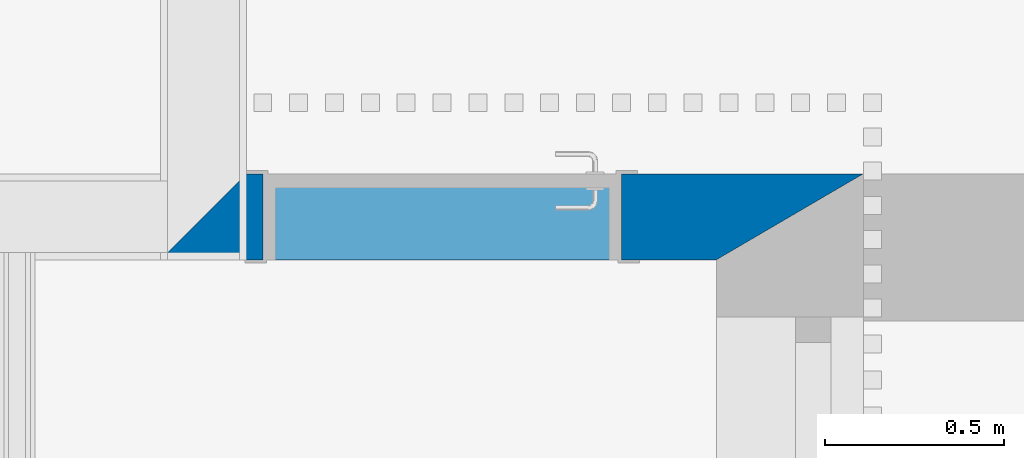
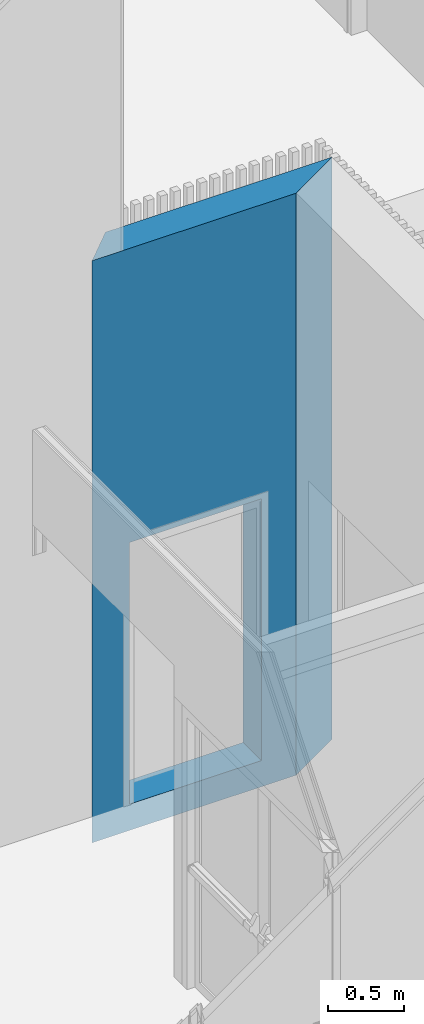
# One storey, part 4 of 34: 1 wall, 1 opening.
"""IFC2X3 building model written with IfcOpenShell, lengths in metres."""

import ifcopenshell
import ifcopenshell.guid

model = None  # the IFC model being written
_history = None  # IfcOwnerHistory: only IFC2X3 demands one
_inside = {}  # id of a spatial element -> (the spatial element, [elements in it])
_under = {}  # id of a project, library or spatial element -> (it, [spatial elements below it])
_declared = {}  # id of a project -> (the project, [libraries it declares])
_typed = {}  # id of a type object -> (the type object, [elements of that type])
_made_of = {}  # id of a material, layer set ... -> (it, [elements and type objects made of it])


def new_model(schema):
    """Start an empty IFC model of exactly this schema.

    Asked for "IFC4X3", IfcOpenShell would pick the latest addendum, in which some entities
    have other attributes; the version numbers below select the first issue.
    IFC2X3 requires an IfcOwnerHistory on every rooted entity: one is made here for all.
    """
    global model, _history
    if schema == "IFC4X3":
        model = ifcopenshell.file(schema_version=(4, 3, 0, 0))
    else:
        model = ifcopenshell.file(schema=schema)
    _inside.clear()
    _under.clear()
    _declared.clear()
    _typed.clear()
    _made_of.clear()
    _history = None
    if model.schema == "IFC2X3":
        org = make("IfcOrganization", Name="unknown")
        user = make(
            "IfcPersonAndOrganization",
            ThePerson=make("IfcPerson", FamilyName="unknown"),
            TheOrganization=org,
        )
        app = make(
            "IfcApplication",
            ApplicationDeveloper=org,
            Version="unknown",
            ApplicationFullName="unknown",
            ApplicationIdentifier="unknown",
        )
        _history = make(
            "IfcOwnerHistory",
            OwningUser=user,
            OwningApplication=app,
            ChangeAction="ADDED",
            CreationDate=0,
        )
    return model


def make(cls, **values):
    """One entity of the class cls with the attributes given. An attribute that is None is left unset."""
    return model.create_entity(
        cls, **{name: value for name, value in values.items() if value is not None}
    )


def entity(cls, *values):
    """Any entity or typed value of the class cls, its attributes in the order of the schema. None: left unset."""
    e = model.create_entity(cls)
    for i, value in enumerate(values):
        if value is not None:
            e[i] = value
    return e


def rooted(cls, **values):
    """An entity with a GlobalId (a new one), such as an element, a storey or a relation."""
    return make(cls, GlobalId=ifcopenshell.guid.new(), OwnerHistory=_history, **values)


def si_unit(unit_type, name, prefix=None):
    """IfcSIUnit, for example si_unit("LENGTHUNIT", "METRE", prefix="MILLI")."""
    return make("IfcSIUnit", UnitType=unit_type, Prefix=prefix, Name=name)


def converted_unit(unit_type, name, factor, base, dimensions=None, offset=None):
    """IfcConversionBasedUnit, such as the inch: factor (a typed value) times the base unit."""
    return make(
        "IfcConversionBasedUnit"
        if offset is None
        else "IfcConversionBasedUnitWithOffset",
        ConversionOffset=offset,
        Dimensions=None
        if dimensions is None
        else entity("IfcDimensionalExponents", *dimensions),
        UnitType=unit_type,
        Name=name,
        ConversionFactor=make(
            "IfcMeasureWithUnit", ValueComponent=factor, UnitComponent=base
        ),
    )


def derived_unit(unit_type, elements):
    """IfcDerivedUnit: a product of units, each with its exponent."""
    return make(
        "IfcDerivedUnit",
        Elements=[
            make("IfcDerivedUnitElement", Unit=unit, Exponent=power)
            for unit, power in elements
        ],
        UnitType=unit_type,
    )


def money_unit(currency):
    """IfcMonetaryUnit."""
    return make("IfcMonetaryUnit", Currency=currency)


def assignment(units):
    """IfcUnitAssignment: the units of a project."""
    return None if units is None else make("IfcUnitAssignment", Units=units)


def point(xyz):
    """IfcCartesianPoint."""
    return None if xyz is None else make("IfcCartesianPoint", Coordinates=xyz)


def direction(xyz):
    """IfcDirection."""
    return None if xyz is None else make("IfcDirection", DirectionRatios=xyz)


def frame(location, z_axis=None, x_axis=None):
    """IfcAxis2Placement3D, a coordinate frame: its origin and axes. An axis left out is left unset."""
    return make(
        "IfcAxis2Placement3D",
        Location=point(location),
        Axis=direction(z_axis),
        RefDirection=direction(x_axis),
    )


def frame_2d(location, x_axis=None):
    """IfcAxis2Placement2D, a coordinate frame in the plane: its origin and x axis."""
    return make(
        "IfcAxis2Placement2D", Location=point(location), RefDirection=direction(x_axis)
    )


def origin_with_axes():
    """The frame at (0, 0, 0) with the z axis (0, 0, 1) and the x axis (1, 0, 0) written out."""
    return frame((0.0, 0.0, 0.0), z_axis=(0.0, 0.0, 1.0), x_axis=(1.0, 0.0, 0.0))


def origin_2d_with_axis():
    """The frame at (0, 0) in the plane with the x axis (1, 0) written out."""
    return frame_2d((0.0, 0.0), x_axis=(1.0, 0.0))


def place(relative_to, where):
    """IfcLocalPlacement: puts the frame where relative to a parent placement (None: the world)."""
    return make(
        "IfcLocalPlacement", PlacementRelTo=relative_to, RelativePlacement=where
    )


def context(
    kind, dimensions, precision=None, world=None, true_north=None, identifier=None
):
    """IfcGeometricRepresentationContext, for example the 3D "Model" context."""
    return make(
        "IfcGeometricRepresentationContext",
        ContextIdentifier=identifier,
        ContextType=kind,
        CoordinateSpaceDimension=dimensions,
        Precision=precision,
        WorldCoordinateSystem=world,
        TrueNorth=true_north,
    )


def subcontext(parent, identifier, kind, view, scale=None):
    """IfcGeometricRepresentationSubContext, for example "Body" below "Model"."""
    return make(
        "IfcGeometricRepresentationSubContext",
        ContextIdentifier=identifier,
        ContextType=kind,
        ParentContext=parent,
        TargetScale=scale,
        TargetView=view,
    )


def project(units=None, contexts=None):
    """IfcProject with its units and contexts."""
    return rooted(
        "IfcProject",
        Name="project",
        RepresentationContexts=contexts,
        UnitsInContext=assignment(units),
    )


def spatial(cls, under=None, at=None, **own):
    """A site, building, storey or space (cls), placed at a placement, below another one or the project."""
    s = rooted(cls, ObjectPlacement=at, **own)
    if under is not None:
        _under.setdefault(under.id(), (under, []))[1].append(s)
    return s


def polyline(points):
    """IfcPolyline through the points."""
    return make("IfcPolyline", Points=[point(p) for p in points])


def profile(cls, at=None, kind="AREA", **sizes):
    """A parametric profile (cls). Its sizes go by their IFC names, for example OverallWidth=200.0."""
    return make(cls, ProfileType=kind, Position=at, **sizes)


def rectangle(**sizes):
    """IfcRectangleProfileDef."""
    return profile("IfcRectangleProfileDef", **sizes)


def outline(outer, holes=None, kind="AREA"):
    """IfcArbitraryClosedProfileDef: a profile drawn as a closed curve; with holes, ...WithVoids."""
    if holes is None:
        return make("IfcArbitraryClosedProfileDef", ProfileType=kind, OuterCurve=outer)
    return make(
        "IfcArbitraryProfileDefWithVoids",
        ProfileType=kind,
        OuterCurve=outer,
        InnerCurves=holes,
    )


def extrude(swept, where, along, depth):
    """IfcExtrudedAreaSolid: the profile swept, set in the frame where, extruded along a direction by depth."""
    return make(
        "IfcExtrudedAreaSolid",
        SweptArea=swept,
        Position=where,
        ExtrudedDirection=direction(along),
        Depth=depth,
    )


def shape(context_of_items, identifier, shape_type, items):
    """IfcShapeRepresentation: the items that make up one representation, for example the "Body"."""
    return make(
        "IfcShapeRepresentation",
        ContextOfItems=context_of_items,
        RepresentationIdentifier=identifier,
        RepresentationType=shape_type,
        Items=items,
    )


def material(Name=None, Category=None):
    """IfcMaterial."""
    return make("IfcMaterial", Name=Name, Category=Category)


def layer(
    of_material, thickness, ventilated=None, Name=None, Category=None, Priority=None
):
    """IfcMaterialLayer: one layer of a wall or slab, of a material (None: an air gap)."""
    return make(
        "IfcMaterialLayer",
        Material=of_material,
        LayerThickness=thickness,
        IsVentilated=ventilated,
        Name=Name,
        Category=Category,
        Priority=Priority,
    )


def layer_set(layers, Name=None):
    """IfcMaterialLayerSet."""
    return make("IfcMaterialLayerSet", MaterialLayers=layers, LayerSetName=Name)


def layer_usage(for_layer_set, set_direction, sense, offset, extent=None):
    """IfcMaterialLayerSetUsage: how a layer set lies in its element."""
    return make(
        "IfcMaterialLayerSetUsage",
        ForLayerSet=for_layer_set,
        LayerSetDirection=set_direction,
        DirectionSense=sense,
        OffsetFromReferenceLine=offset,
        ReferenceExtent=extent,
    )


def made_of(thing, what):
    """Note that an element or type object is made of a material, layer set ...; save() writes the relation."""
    if what is not None:
        _made_of.setdefault(what.id(), (what, []))[1].append(thing)
    return thing


def type_object(cls, material=None, **own):
    """A type object (cls), such as IfcWallType, which elements share."""
    return made_of(rooted(cls, **own), material)


def element(
    cls,
    number,
    at=None,
    inside=None,
    cuts=None,
    type_object=None,
    material=None,
    context=None,
    identifier="Body",
    shape_type=None,
    held_by="IfcProductDefinitionShape",
    body=None,
    shapes=None,
    **own,
):
    """One element of the class cls, such as IfcWall. Its Tag is "e" and its number.

    at: its placement. inside: the storey or other place that contains it. cuts: it is an
    opening in that element (IfcRelVoidsElement). A single representation is given by context,
    identifier, shape_type and body (its items); several are given by shapes. held_by: the class
    of the entity that holds the representations. save() writes the other relations.
    """
    e = rooted(cls, Tag="e%d" % number, ObjectPlacement=at, **own)
    if body is not None:
        shapes = [shape(context, identifier, shape_type, body)]
    if shapes is not None:
        e.Representation = make(held_by, Representations=shapes)
    if inside is not None:
        _inside.setdefault(inside.id(), (inside, []))[1].append(e)
    if cuts is not None:
        rooted(
            "IfcRelVoidsElement", RelatingBuildingElement=cuts, RelatedOpeningElement=e
        )
    if type_object is not None:
        _typed.setdefault(type_object.id(), (type_object, []))[1].append(e)
    return made_of(e, material)


def aggregate(whole, parts):
    """IfcRelAggregates: a whole, such as a stair, and the parts it consists of."""
    return rooted("IfcRelAggregates", RelatingObject=whole, RelatedObjects=parts)


def save(model, path):
    """Write the relations noted so far, then the file.

    IfcRelAggregates (storeys below a building ...), IfcRelContainedInSpatialStructure (elements
    in a storey), IfcRelDefinesByType, IfcRelAssociatesMaterial and IfcRelDeclares: one each for
    every whole, place, type object, material and project.
    """
    for whole, parts in _under.values():
        aggregate(whole, parts)
    for where, things in _inside.values():
        rooted(
            "IfcRelContainedInSpatialStructure",
            RelatedElements=things,
            RelatingStructure=where,
        )
    for kind, things in _typed.values():
        rooted("IfcRelDefinesByType", RelatedObjects=things, RelatingType=kind)
    for what, things in _made_of.values():
        rooted("IfcRelAssociatesMaterial", RelatedObjects=things, RelatingMaterial=what)
    for by, libraries in _declared.values():
        rooted("IfcRelDeclares", RelatingContext=by, RelatedDefinitions=libraries)
    model.write(path)


model = new_model("IFC2X3")

# Units and contexts
model_context = context("Model", 3, precision=1e-05, world=origin_with_axes(), true_north=direction((0.0, 1.0)))
body_context = subcontext(model_context, "Body", "Model", "MODEL_VIEW")
ifc_project = project(units=[si_unit("LENGTHUNIT", "METRE"), si_unit("AREAUNIT", "SQUARE_METRE"), si_unit("VOLUMEUNIT", "CUBIC_METRE"), converted_unit("PLANEANGLEUNIT", "DEGREE", entity("IfcPlaneAngleMeasure", 0.0174532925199), si_unit("PLANEANGLEUNIT", "RADIAN"), dimensions=[0, 0, 0, 0, 0, 0, 0]), money_unit("CHF"), converted_unit("TIMEUNIT", "Year", entity("IfcTimeMeasure", 31556926.0), si_unit("TIMEUNIT", "SECOND"), dimensions=[0, 0, 1, 0, 0, 0, 0]), si_unit("MASSUNIT", "GRAM", prefix="KILO"), si_unit("THERMODYNAMICTEMPERATUREUNIT", "DEGREE_CELSIUS"), si_unit("LUMINOUSINTENSITYUNIT", "LUMEN"), si_unit("ENERGYUNIT", "JOULE", prefix="MEGA"), derived_unit("THERMALCONDUCTANCEUNIT", [(si_unit("POWERUNIT", "WATT"), 1), (si_unit("LENGTHUNIT", "METRE"), -1), (si_unit("THERMODYNAMICTEMPERATUREUNIT", "KELVIN"), -1)]), derived_unit("SPECIFICHEATCAPACITYUNIT", [(si_unit("ENERGYUNIT", "JOULE"), 1), (si_unit("MASSUNIT", "GRAM", prefix="KILO"), -1), (si_unit("THERMODYNAMICTEMPERATUREUNIT", "KELVIN"), -1)]), derived_unit("MASSDENSITYUNIT", [(si_unit("MASSUNIT", "GRAM", prefix="KILO"), 1), (si_unit("VOLUMEUNIT", "CUBIC_METRE"), -1)])], contexts=[model_context])

# Site, building, storey
site_placement = place(None, origin_with_axes())
site = spatial("IfcSite", under=ifc_project, at=site_placement, Name="Site", CompositionType="ELEMENT")
building_placement = place(site_placement, origin_with_axes())
building = spatial("IfcBuilding", under=site, at=building_placement, Name="Bâtiment", CompositionType="ELEMENT")
storey_placement = place(building_placement, origin_with_axes())
storey = spatial("IfcBuildingStorey", under=building, at=storey_placement, Name="Rez-de-chaussée", CompositionType="ELEMENT", Elevation=0.0)

# Wall, opening
ifc_material_1 = material(Name="Finition int - Enduit plâtre")
ifc_layer_1 = layer(ifc_material_1, 0.02, ventilated="UNKNOWN")
ifc_material_2 = material(Name="Béton armé (Coulé)")
ifc_layer_2 = layer(ifc_material_2, 0.2, ventilated="UNKNOWN")
ifc_layer_3 = layer(ifc_material_1, 0.02, ventilated="UNKNOWN")
ifc_layer_set = layer_set([ifc_layer_1, ifc_layer_2, ifc_layer_3], Name="Mur 20cm + enduit 2cm")
ifc_layer_usage = layer_usage(ifc_layer_set, "AXIS2", "NEGATIVE", 0.19)
wall_type = type_object("IfcWallType", Name="Mur 20cm + enduit 2cm 240", PredefinedType="NOTDEFINED")
wall_placement = place(storey_placement, frame((33.7494697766, 15.07, -0.21), z_axis=(0.0, 0.0, 1.0), x_axis=(-1.0, 0.0, 0.0)))
wall = element("IfcWallStandardCase", 1, at=wall_placement, inside=storey, type_object=wall_type, material=ifc_layer_usage, Name="MUR_EXT-005", context=body_context, shape_type="SweptSolid", body=[
    extrude(outline(polyline([(-0.29, -0.05), (1.43, -0.05), (1.67, 0.19), (0.12, 0.19), (-0.29, -0.05)])), origin_with_axes(), (0.0, 0.0, 1.0), 4.67),
])
opening_placement = place(wall_placement, frame((0.885, 0.0, 0.21), z_axis=(0.0, 0.0, 1.0), x_axis=(1.0, 0.0, 0.0)))
element("IfcOpeningElement", 2, at=opening_placement, cuts=wall, Name="PORTE-PP90 A2 - PF1/2H", context=body_context, shape_type="SweptSolid", body=[
    extrude(rectangle(XDim=1.0, YDim=2.1, at=origin_2d_with_axis()), frame((0.0, 0.24, 1.05), z_axis=(0.0, 1.0, 0.0), x_axis=(1.0, 0.0, 0.0)), (0.0, 0.0, -1.0), 0.72),
    extrude(rectangle(XDim=1.1, YDim=2.15, at=origin_2d_with_axis()), frame((0.0, 0.19, 1.075), z_axis=(0.0, 1.0, 0.0), x_axis=(1.0, 0.0, 0.0)), (0.0, 0.0, 1.0), 0.24),
    extrude(rectangle(XDim=1.09, YDim=2.145, at=origin_2d_with_axis()), frame((0.0, -0.05, 1.0725), z_axis=(0.0, -1.0, 0.0), x_axis=(1.0, 0.0, 0.0)), (0.0, 0.0, 1.0), 0.24),
])

save(model, "model.ifc")
